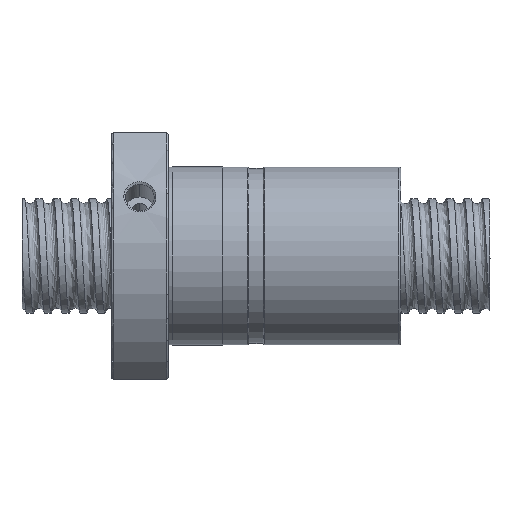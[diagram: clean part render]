
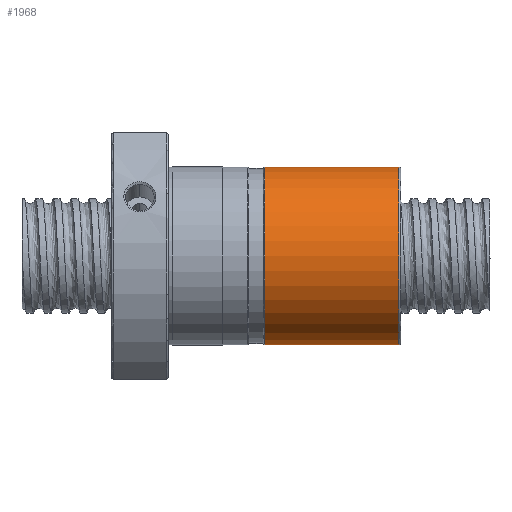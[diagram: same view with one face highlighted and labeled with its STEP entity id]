
A CAD part, front view. The second image highlights one B-rep face of the part: STEP entity #1968.
In plain terms, the highlighted cylindrical face has radius 24.9 mm (diameter 49.8 mm), a partial arc.
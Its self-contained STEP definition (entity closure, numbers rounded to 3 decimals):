
#1169 = VERTEX_POINT ( 'NONE', #10257 ) ;
#1170 = VERTEX_POINT ( 'NONE', #10256 ) ;
#1446 = VERTEX_POINT ( 'NONE', #10609 ) ;
#1447 = VERTEX_POINT ( 'NONE', #10608 ) ;
#1624 = EDGE_CURVE ( 'NONE', #1170, #1446, #11324, .T. ) ;
#1627 = EDGE_CURVE ( 'NONE', #1169, #1447, #11319, .T. ) ;
#1968 = ADVANCED_FACE ( 'NONE', ( #34898 ), #34835, .T. ) ;
#1969 = EDGE_LOOP ( 'NONE', ( #1970, #1971, #1973, #1974 ) ) ;
#1970 = ORIENTED_EDGE ( 'NONE', *, *, #1624, .F. ) ;
#1971 = ORIENTED_EDGE ( 'NONE', *, *, #1972, .T. ) ;
#1972 = EDGE_CURVE ( 'NONE', #1170, #1169, #34998, .T. ) ;
#1973 = ORIENTED_EDGE ( 'NONE', *, *, #1627, .T. ) ;
#1974 = ORIENTED_EDGE ( 'NONE', *, *, #1975, .T. ) ;
#1975 = EDGE_CURVE ( 'NONE', #1447, #1446, #34679, .T. ) ;
#10256 = CARTESIAN_POINT ( 'NONE',  ( -0.5, 0., -24.9 ) ) ;
#10257 = CARTESIAN_POINT ( 'NONE',  ( -0.5, 0., 24.9 ) ) ;
#10608 = CARTESIAN_POINT ( 'NONE',  ( -38.01, 0., 24.9 ) ) ;
#10609 = CARTESIAN_POINT ( 'NONE',  ( -38.01, 0., -24.9 ) ) ;
#11207 = DIRECTION ( 'NONE',  ( -1., 0., 0. ) ) ;
#11208 = VECTOR ( 'NONE', #11207, 1000. ) ;
#11315 = CARTESIAN_POINT ( 'NONE',  ( 0., 0., 24.9 ) ) ;
#11316 = DIRECTION ( 'NONE',  ( -1., 0., 0. ) ) ;
#11317 = VECTOR ( 'NONE', #11316, 1000. ) ;
#11318 = CARTESIAN_POINT ( 'NONE',  ( 0., 0., -24.9 ) ) ;
#11319 = LINE ( 'NONE', #11315, #11208 ) ;
#11324 = LINE ( 'NONE', #11318, #11317 ) ;
#34160 = DIRECTION ( 'NONE',  ( 0., 0., 1. ) ) ;
#34162 = DIRECTION ( 'NONE',  ( 1., 0., 0. ) ) ;
#34677 = AXIS2_PLACEMENT_3D ( 'NONE', #35000, #34162, #34160 ) ;
#34679 = CIRCLE ( 'NONE', #34677, 24.9 ) ;
#34825 = DIRECTION ( 'NONE',  ( -1., 0., 0. ) ) ;
#34827 = CARTESIAN_POINT ( 'NONE',  ( 0., 0., 0. ) ) ;
#34828 = AXIS2_PLACEMENT_3D ( 'NONE', #34827, #34825, #35004 ) ;
#34835 = CYLINDRICAL_SURFACE ( 'NONE', #34828, 24.9 ) ;
#34898 = FACE_OUTER_BOUND ( 'NONE', #1969, .T. ) ;
#34991 = DIRECTION ( 'NONE',  ( 0., 0., -1. ) ) ;
#34993 = DIRECTION ( 'NONE',  ( -1., 0., 0. ) ) ;
#34994 = CARTESIAN_POINT ( 'NONE',  ( -0.5, 0., 0. ) ) ;
#34996 = AXIS2_PLACEMENT_3D ( 'NONE', #34994, #34993, #34991 ) ;
#34998 = CIRCLE ( 'NONE', #34996, 24.9 ) ;
#35000 = CARTESIAN_POINT ( 'NONE',  ( -38.01, 0., 0. ) ) ;
#35004 = DIRECTION ( 'NONE',  ( 0., 0., 1. ) ) ;
